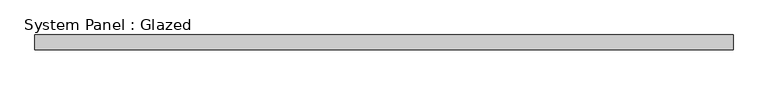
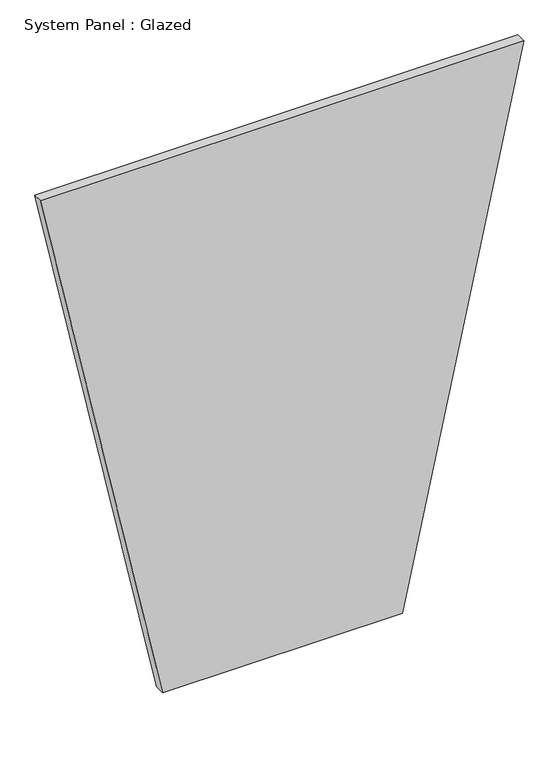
"""IFC4 building model written with IfcOpenShell, lengths in millimetres: plate geometry, System Panel : Glazed."""

from ifc_helpers import new_model, si_unit, frame, origin, place, context, project, spatial, polyline, outline, extrude, source, transform, mapped, element, save


def system_panel_glazed_c6a53631(model_context):
    return source(origin(), model_context, "Body", "SweptSolid", [
        extrude(outline(polyline([(0.0, -297.5713635), (0.0, 297.5713635), (1394.3114777, 599.1243626), (1394.3114777, -599.1243626), (0.0, -297.5713635)])), frame((0.0, 19.05, 0.0), z_axis=(0.0, 1.0, 0.0), x_axis=(0.0, 0.0, 1.0)), (0.0, 0.0, 1.0), 25.4),
    ])


if __name__ == "__main__":
    model = new_model("IFC4")
    model_context = context("Model", 3, world=origin())
    ifc_project = project(units=[si_unit("LENGTHUNIT", "METRE", prefix="MILLI")], contexts=[model_context])
    site = spatial("IfcSite", under=ifc_project)
    building = spatial("IfcBuilding", under=site)
    placement = place(None, origin())
    system_panel_glazed_shape = system_panel_glazed_c6a53631(model_context)
    element("IfcPlate", 1, ObjectType="System Panel : Glazed", at=placement, inside=building, context=model_context, shape_type="MappedRepresentation", body=[
        mapped(system_panel_glazed_shape, transform((0.0, 0.0, 0.0), x_axis=(1.0, 0.0, 0.0), y_axis=(0.0, 1.0, 0.0), z_axis=(0.0, 0.0, 1.0))),
    ])
    save(model, "model.ifc")
